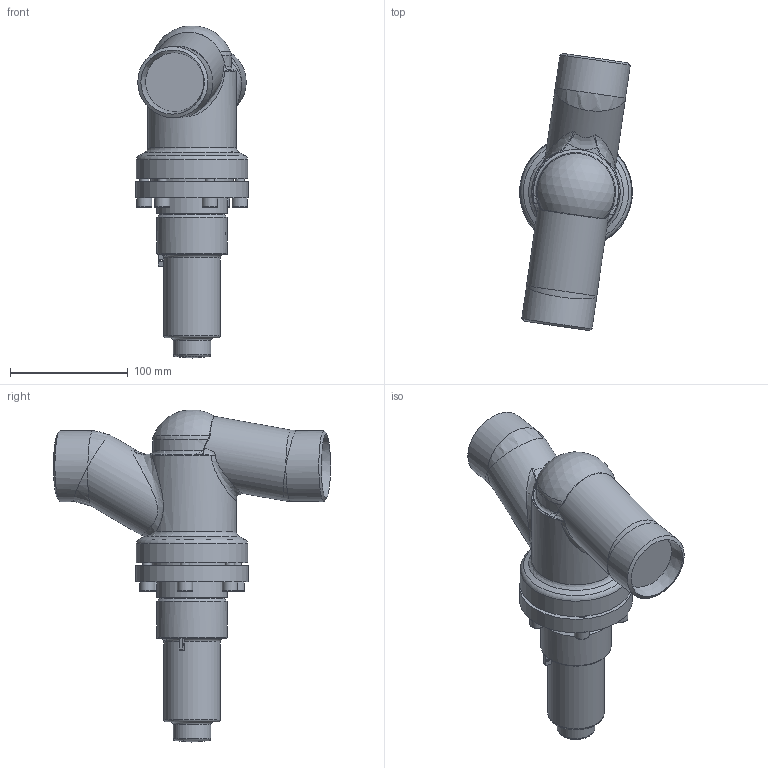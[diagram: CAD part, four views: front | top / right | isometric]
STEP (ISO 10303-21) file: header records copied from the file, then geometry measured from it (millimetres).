
FILE_DESCRIPTION((''),'2;1');
FILE_NAME('Y:\Home\AWP_CAD (2D+3D-Ansicht)\CAD Drawings\3D_STEP\AVR D AE\AVR D AE 26G00-050 PS25.stp','2012-08-27T10:13:00',('Lempe.Ha'),(''),'Autodesk Inventor 2012','Autodesk Inventor 2012','');
FILE_SCHEMA(('AUTOMOTIVE_DESIGN { 1 0 10303 214 1 1 1 1 }'));
Length unit declared in the file: millimetre
Products named in the file (5): 26G00C15A5A30000; 26300E15.5141004; 16G00E15.5034004; 16402.15.3180003; DIN 912 - ersetzt durch DIN EN ISO 4762 M8 x 25
Assembly tree (9 placements, depth 2):
  26G00C15A5A30000
    26300E15.5141004
    16G00E15.5034004
    16402.15.3180003
    DIN 912 - ersetzt durch DIN EN ISO 4762 M8 x 25  x6
Bounding box: 95.96 x 235.44 x 282.16 mm (x, y, z)
Volume: 960376 mm3; surface area: 187398.8 mm2
Topology: 9 solids, 9 shells, 271 faces, 606 edges, 362 vertices
Faces by surface type: plane 90, cylinder 68, cone 40, bspline 39, torus 31, sphere 3
Full cylindrical faces by diameter (mm): 2 x1, 3 x1, 6.647 x6, 8 x6, 9 x6, 13 x6, 18.376 x1, 20.5 x2, 22 x1, 27 x1, 29.835 x1, 30 x1, 32 x1, 34 x1, 38 x2, 44 x1, 48 x2, 48.752 x1, 49.5 x1, 51 x1, 51.1 x1, 52 x1, 52.5 x2, 55 x1, 56 x1, 60 x2, 60.3 x4, 62 x3, 65 x1, 70 x2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
Entity records: 6354 total; most frequent: CARTESIAN_POINT 2459, DIRECTION 790, ORIENTED_EDGE 624, AXIS2_PLACEMENT_3D 381, EDGE_LOOP 334, EDGE_CURVE 312, VERTEX_POINT 235, CIRCLE 198
